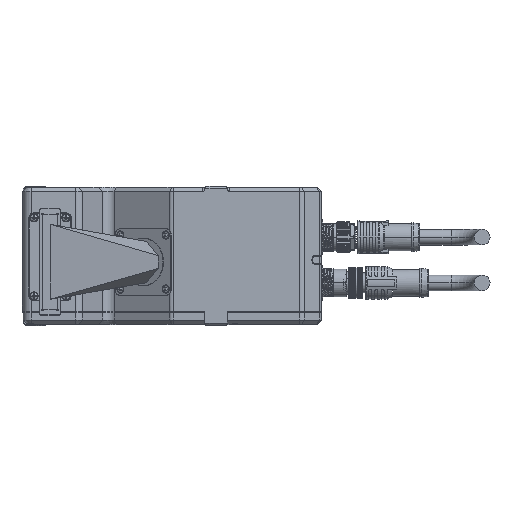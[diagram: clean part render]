
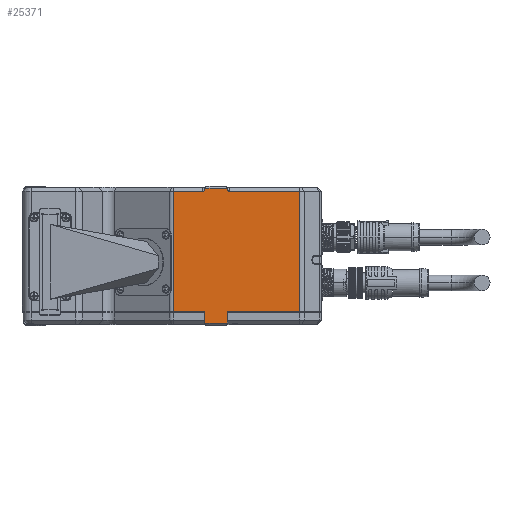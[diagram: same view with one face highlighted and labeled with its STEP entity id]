
A CAD part, top view. The second image highlights one B-rep face of the part: STEP entity #25371.
In plain terms, the highlighted planar face has unit normal (0, 0, 1).
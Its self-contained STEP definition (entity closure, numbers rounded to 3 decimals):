
#21267=DIRECTION('',(0.,1.,0.));
#21268=VECTOR('',#21267,58.);
#21269=CARTESIAN_POINT('',(61.507,-27.,54.75));
#21270=LINE('',#21269,#21268);
#21271=DIRECTION('',(0.577,-0.816,0.));
#21272=VECTOR('',#21271,0.866);
#21273=CARTESIAN_POINT('',(26.25,32.5,54.75));
#21274=LINE('',#21273,#21272);
#21275=CARTESIAN_POINT('',(26.75,31.793,54.75));
#21276=CARTESIAN_POINT('',(26.79,31.678,54.75));
#21277=CARTESIAN_POINT('',(26.888,31.473,54.75));
#21278=CARTESIAN_POINT('',(27.081,31.23,54.75));
#21279=CARTESIAN_POINT('',(27.283,31.086,54.75));
#21280=CARTESIAN_POINT('',(27.476,31.015,54.75));
#21281=CARTESIAN_POINT('',(27.587,31.,54.75));
#21282=CARTESIAN_POINT('',(27.648,31.,54.75));
#21284=DIRECTION('',(-1.,0.,0.));
#21285=VECTOR('',#21284,34.757);
#21286=CARTESIAN_POINT('',(61.507,-27.,54.75));
#21287=LINE('',#21286,#21285);
#21288=DIRECTION('',(-0.577,-0.816,0.));
#21289=VECTOR('',#21288,0.866);
#21290=CARTESIAN_POINT('',(26.75,-31.793,54.75));
#21291=LINE('',#21290,#21289);
#21292=DIRECTION('',(-0.577,0.816,0.));
#21293=VECTOR('',#21292,0.866);
#21294=CARTESIAN_POINT('',(16.25,-32.5,54.75));
#21295=LINE('',#21294,#21293);
#21296=DIRECTION('',(0.,1.,0.));
#21297=VECTOR('',#21296,4.793);
#21298=CARTESIAN_POINT('',(15.75,-31.793,54.75));
#21299=LINE('',#21298,#21297);
#21300=DIRECTION('',(-1.,0.,0.));
#21301=VECTOR('',#21300,15.231);
#21302=CARTESIAN_POINT('',(15.75,-27.,54.75));
#21303=LINE('',#21302,#21301);
#21304=CARTESIAN_POINT('',(14.852,31.,54.75));
#21305=CARTESIAN_POINT('',(14.913,31.,54.75));
#21306=CARTESIAN_POINT('',(15.024,31.015,54.75));
#21307=CARTESIAN_POINT('',(15.217,31.086,54.75));
#21308=CARTESIAN_POINT('',(15.419,31.23,54.75));
#21309=CARTESIAN_POINT('',(15.612,31.473,54.75));
#21310=CARTESIAN_POINT('',(15.71,31.678,54.75));
#21311=CARTESIAN_POINT('',(15.75,31.793,54.75));
#21313=DIRECTION('',(0.577,0.816,0.));
#21314=VECTOR('',#21313,0.866);
#21315=CARTESIAN_POINT('',(15.75,31.793,54.75));
#21316=LINE('',#21315,#21314);
#21333=DIRECTION('',(-1.,0.,0.));
#21334=VECTOR('',#21333,33.859);
#21335=CARTESIAN_POINT('',(61.507,31.,54.75));
#21336=LINE('',#21335,#21334);
#21337=DIRECTION('',(-1.,0.,0.));
#21338=VECTOR('',#21337,10.);
#21339=CARTESIAN_POINT('',(26.25,32.5,54.75));
#21340=LINE('',#21339,#21338);
#21357=DIRECTION('',(-1.,0.,0.));
#21358=VECTOR('',#21357,14.333);
#21359=CARTESIAN_POINT('',(14.852,31.,54.75));
#21360=LINE('',#21359,#21358);
#21374=DIRECTION('',(0.,-1.,0.));
#21375=VECTOR('',#21374,58.);
#21376=CARTESIAN_POINT('',(0.519,31.,54.75));
#21377=LINE('',#21376,#21375);
#22493=DIRECTION('',(0.,1.,0.));
#22494=VECTOR('',#22493,4.793);
#22495=CARTESIAN_POINT('',(26.75,-31.793,54.75));
#22496=LINE('',#22495,#22494);
#22521=DIRECTION('',(1.,0.,0.));
#22522=VECTOR('',#22521,10.);
#22523=CARTESIAN_POINT('',(16.25,-32.5,54.75));
#22524=LINE('',#22523,#22522);
#23465=CARTESIAN_POINT('',(26.25,32.5,54.75));
#23466=CARTESIAN_POINT('',(26.75,31.793,54.75));
#23467=VERTEX_POINT('',#23465);
#23468=VERTEX_POINT('',#23466);
#23469=VERTEX_POINT('',#21282);
#23470=CARTESIAN_POINT('',(61.507,31.,54.75));
#23471=VERTEX_POINT('',#23470);
#23472=CARTESIAN_POINT('',(61.507,-27.,54.75));
#23473=VERTEX_POINT('',#23472);
#23474=CARTESIAN_POINT('',(26.75,-27.,54.75));
#23475=VERTEX_POINT('',#23474);
#23476=CARTESIAN_POINT('',(26.75,-31.793,54.75));
#23477=VERTEX_POINT('',#23476);
#23478=CARTESIAN_POINT('',(26.25,-32.5,54.75));
#23479=VERTEX_POINT('',#23478);
#23480=CARTESIAN_POINT('',(16.25,-32.5,54.75));
#23481=VERTEX_POINT('',#23480);
#23482=CARTESIAN_POINT('',(15.75,-31.793,54.75));
#23483=VERTEX_POINT('',#23482);
#23484=CARTESIAN_POINT('',(15.75,-27.,54.75));
#23485=VERTEX_POINT('',#23484);
#23486=CARTESIAN_POINT('',(0.519,-27.,54.75));
#23487=VERTEX_POINT('',#23486);
#23488=CARTESIAN_POINT('',(0.519,31.,54.75));
#23489=VERTEX_POINT('',#23488);
#23490=CARTESIAN_POINT('',(14.852,31.,54.75));
#23491=VERTEX_POINT('',#23490);
#23492=VERTEX_POINT('',#21311);
#23493=CARTESIAN_POINT('',(16.25,32.5,54.75));
#23494=VERTEX_POINT('',#23493);
#25334=CARTESIAN_POINT('',(-71.75,-33.,54.75));
#25335=DIRECTION('',(0.,0.,1.));
#25336=DIRECTION('',(1.,0.,0.));
#25337=AXIS2_PLACEMENT_3D('',#25334,#25335,#25336);
#25338=PLANE('',#25337);
#25340=ORIENTED_EDGE('',*,*,#25339,.T.);
#25342=ORIENTED_EDGE('',*,*,#25341,.T.);
#25344=ORIENTED_EDGE('',*,*,#25343,.F.);
#25345=ORIENTED_EDGE('',*,*,#25329,.F.);
#25346=ORIENTED_EDGE('',*,*,#24382,.T.);
#25348=ORIENTED_EDGE('',*,*,#25347,.F.);
#25350=ORIENTED_EDGE('',*,*,#25349,.T.);
#25352=ORIENTED_EDGE('',*,*,#25351,.F.);
#25354=ORIENTED_EDGE('',*,*,#25353,.T.);
#25356=ORIENTED_EDGE('',*,*,#25355,.T.);
#25358=ORIENTED_EDGE('',*,*,#25357,.T.);
#25360=ORIENTED_EDGE('',*,*,#25359,.F.);
#25362=ORIENTED_EDGE('',*,*,#25361,.F.);
#25364=ORIENTED_EDGE('',*,*,#25363,.T.);
#25366=ORIENTED_EDGE('',*,*,#25365,.T.);
#25368=ORIENTED_EDGE('',*,*,#25367,.F.);
#25369=EDGE_LOOP('',(#25340,#25342,#25344,#25345,#25346,#25348,#25350,#25352,
#25354,#25356,#25358,#25360,#25362,#25364,#25366,#25368));
#25370=FACE_OUTER_BOUND('',#25369,.F.);
#21283=B_SPLINE_CURVE_WITH_KNOTS('',3,(#21275,#21276,#21277,#21278,#21279,
#21280,#21281,#21282),.UNSPECIFIED.,.F.,.F.,(4,1,1,1,1,4),(0.,0.25,0.5,
0.75,0.875,1.),.UNSPECIFIED.);
#21312=B_SPLINE_CURVE_WITH_KNOTS('',3,(#21304,#21305,#21306,#21307,#21308,
#21309,#21310,#21311),.UNSPECIFIED.,.F.,.F.,(4,1,1,1,1,4),(0.,0.125,0.25,
0.5,0.75,1.),.UNSPECIFIED.);
#24382=EDGE_CURVE('',#23473,#23475,#21287,.T.);
#25329=EDGE_CURVE('',#23473,#23471,#21270,.T.);
#25339=EDGE_CURVE('',#23467,#23468,#21274,.T.);
#25341=EDGE_CURVE('',#23468,#23469,#21283,.T.);
#25343=EDGE_CURVE('',#23471,#23469,#21336,.T.);
#25347=EDGE_CURVE('',#23477,#23475,#22496,.T.);
#25349=EDGE_CURVE('',#23477,#23479,#21291,.T.);
#25351=EDGE_CURVE('',#23481,#23479,#22524,.T.);
#25353=EDGE_CURVE('',#23481,#23483,#21295,.T.);
#25355=EDGE_CURVE('',#23483,#23485,#21299,.T.);
#25357=EDGE_CURVE('',#23485,#23487,#21303,.T.);
#25359=EDGE_CURVE('',#23489,#23487,#21377,.T.);
#25361=EDGE_CURVE('',#23491,#23489,#21360,.T.);
#25363=EDGE_CURVE('',#23491,#23492,#21312,.T.);
#25365=EDGE_CURVE('',#23492,#23494,#21316,.T.);
#25367=EDGE_CURVE('',#23467,#23494,#21340,.T.);
#25371=ADVANCED_FACE('',(#25370),#25338,.T.);
